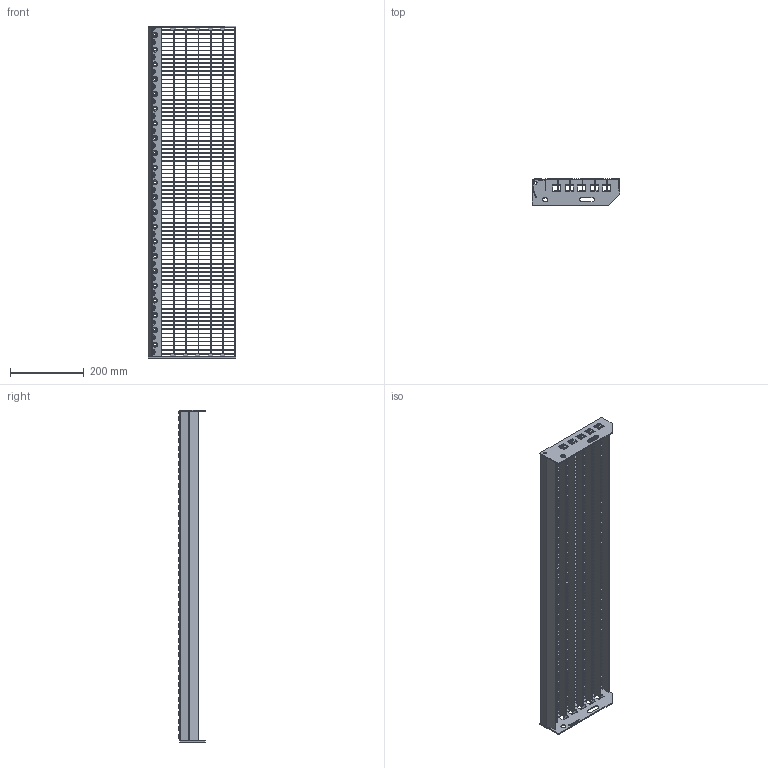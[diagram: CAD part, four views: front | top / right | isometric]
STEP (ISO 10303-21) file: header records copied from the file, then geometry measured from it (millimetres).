
FILE_DESCRIPTION(/* description */ ('','CAx-IF Rec.Pracs.---Representation and Presentation of Product Manufacturing Information (PMI)---3.8---2014-02-18'),/* implementation_level */ '2;1');
FILE_NAME(/* name */ 'C:\Users\phaverkotte\Desktop\Lager STEP\P-Stufen\PX42 230-33 11-2\PX42 230-33 11-2 900mm x 240mm.stp',/* time_stamp */ '2018-03-24T10:55:30+01:00',/* author */ ('phaverkotte'),/* organization */ (''),/* preprocessor_version */ 'ST-DEVELOPER v16.13',/* originating_system */ 'Autodesk Inventor 2018',/* authorisation */ '');
FILE_SCHEMA (('AP242_MANAGED_MODEL_BASED_3D_ENGINEERING_MIM_LF { 1 0 10303 442 1 1 4 }'));
Length unit declared in the file: millimetre
Products named in the file (8): Schodišťový stupeň přím
ý lisovaný; Seitenplatte ausgeklinkt links; Seitenplatte 240 ausgeklinkt extern rechts; Schod nášlap; P Rošt schodu; Querstab; P Nosný pás; Hinteres Flach
Assembly tree (91 placements, depth 3):
  Schodišťový stupeň přím
ý lisovaný
    Seitenplatte ausgeklinkt links
    Seitenplatte 240 ausgeklinkt extern rechts
    Schod nášlap
    P Rošt schodu
      Querstab  x80
      P Nosný pás  x6
      Hinteres Flach
Bounding box: 236.98 x 72.75 x 900 mm (x, y, z)
Volume: 857273.1 mm3; surface area: 954244.1 mm2
Topology: 90 solids, 90 shells, 14400 faces, 42506 edges, 28303 vertices
Faces by surface type: plane 14088, cone 135, cylinder 112, torus 45, bspline 20
Full cylindrical faces by diameter (mm): 8 x2, 13 x2
Entity records: 37493 total; most frequent: CARTESIAN_POINT 9398, ORIENTED_EDGE 5550, DIRECTION 5494, EDGE_CURVE 2775, LINE 2278, VECTOR 2278, VERTEX_POINT 1906, AXIS2_PLACEMENT_3D 1608
